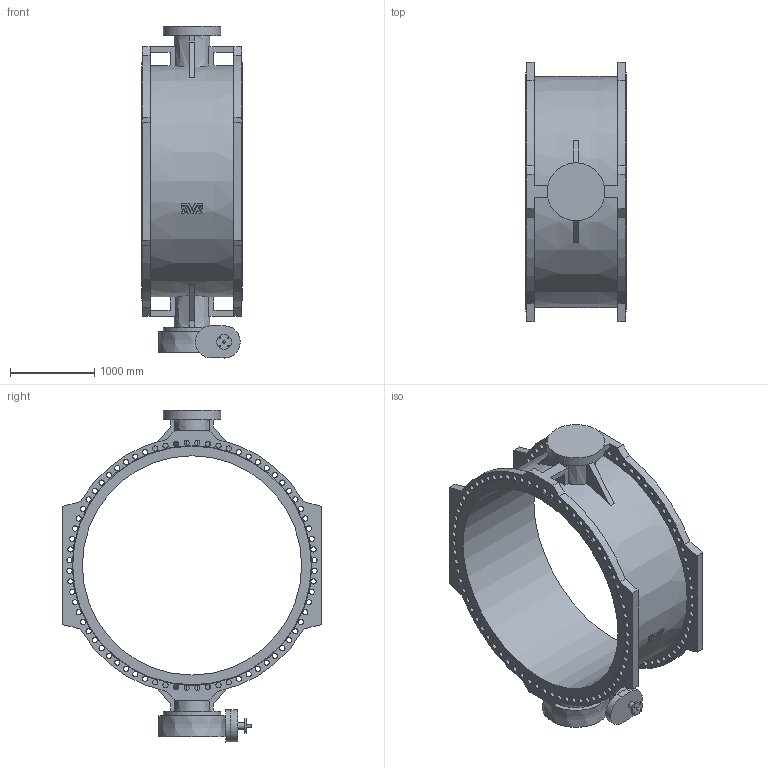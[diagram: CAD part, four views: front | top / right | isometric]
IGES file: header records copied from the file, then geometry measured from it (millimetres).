
Start section: SolidWorks IGES file using analytic representation for surfaces
Global section: file name: \\avksan2\techshare\PBM outline export from Enovia\O_756_102_DN2600_1XX020XX_REV02.igs; native system: SolidWorks 2019; preprocessor: SolidWorks 2019; author: pbm; date: 210809.090626; units: millimetre
Bounding box: 1190 x 3070 x 3937 mm (x, y, z)
Surface area: 34739143.1 mm2 (no closed solid volume)
Topology: 0 solids, 0 shells, 292 faces, 1688 edges, 1525 vertices
Faces by surface type: revolution 179, bspline 113
